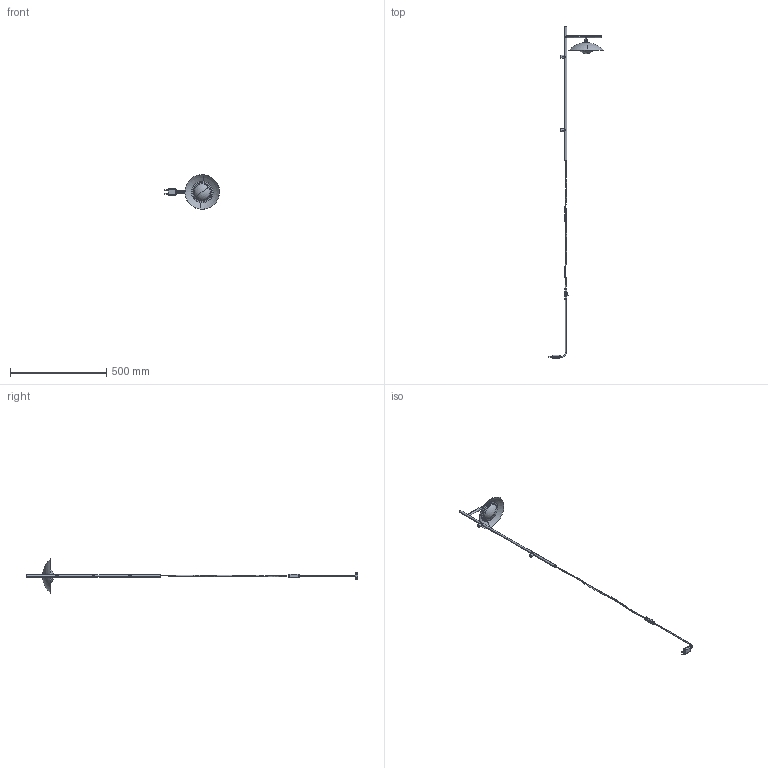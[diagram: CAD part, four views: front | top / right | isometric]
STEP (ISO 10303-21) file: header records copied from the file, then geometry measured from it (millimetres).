
FILE_DESCRIPTION (( 'STEP AP203' ), '1' );
FILE_NAME ('Aplique brazo MEDIANO (con pantalla CUPULA).STEP', '2025-02-03T11:22:10', ( '' ), ( '' ), 'SwSTEP 2.0', 'SolidWorks 2021', '' );
FILE_SCHEMA (( 'CONFIG_CONTROL_DESIGN' ));
Length unit declared in the file: millimetre
Products named in the file (1): Aplique brazo MEDIANO (con pantalla CUPULA)
Bounding box: 284.82 x 1722.01 x 179.63 mm (x, y, z)
Surface area: 208679.1 mm2 (no closed solid volume)
Topology: 0 solids, 130 shells, 2562 faces, 6684 edges, 4379 vertices
Faces by surface type: plane 1257, bspline 832, cylinder 408, torus 37, sphere 20, cone 8
Entity records: 102324 total; most frequent: CARTESIAN_POINT 45710, ORIENTED_EDGE 13076, DIRECTION 8937, EDGE_CURVE 6622, VERTEX_POINT 4375, VECTOR 3977, LINE 3977, EDGE_LOOP 2699
